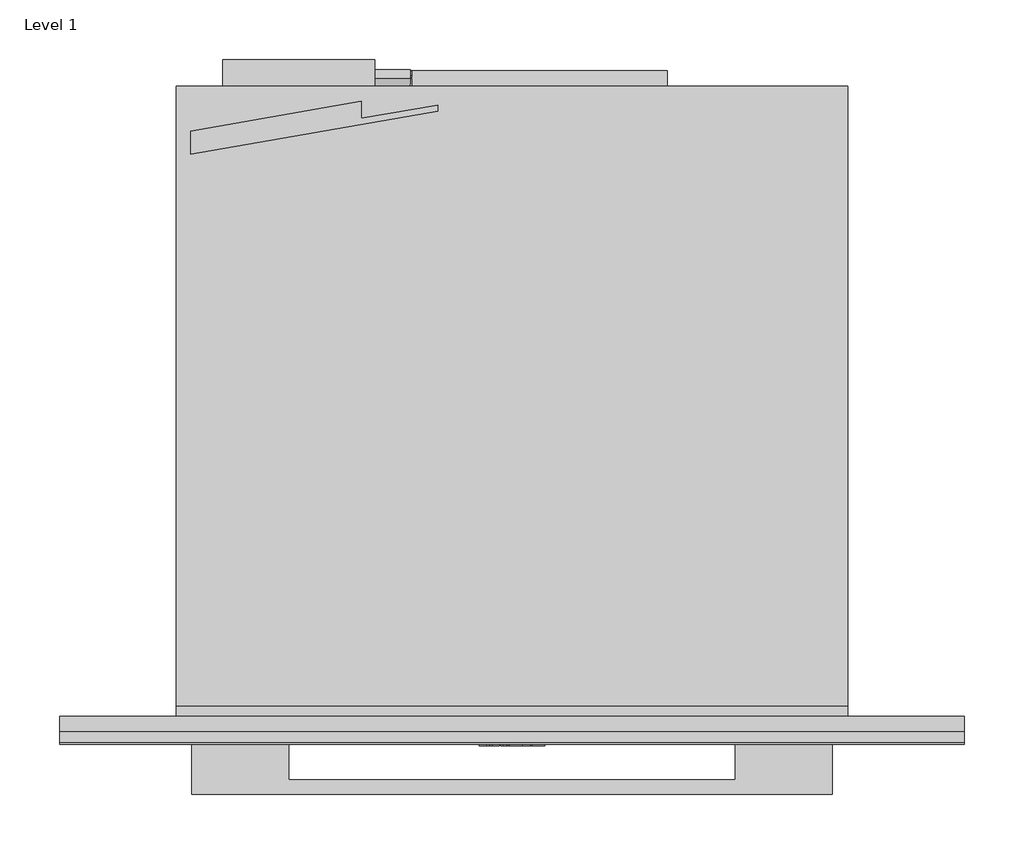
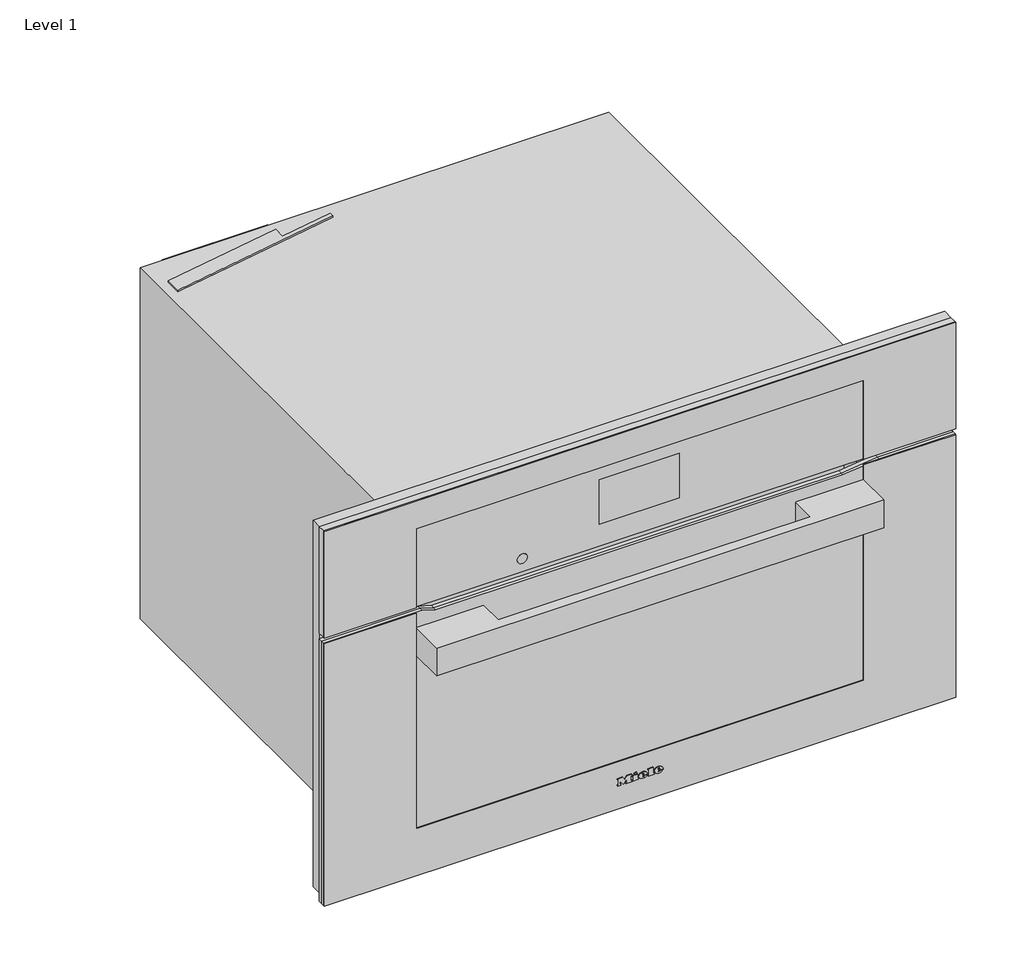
# One storey: 1 proxy.
"""IFC4 building model written with IfcOpenShell, lengths in millimetres."""

from ifc_helpers import new_model, si_unit, origin, place, context, project, spatial, transform, mapped, element, save
from components import specialty_equipment_445a4902

model = new_model("IFC4")

# Units and contexts
model_context = context("Model", 3, world=origin())
ifc_project = project(units=[si_unit("LENGTHUNIT", "METRE", prefix="MILLI")], contexts=[model_context])

# Site, building, storey
site = spatial("IfcSite", under=ifc_project)
building = spatial("IfcBuilding", under=site)
storey = spatial("IfcBuildingStorey", under=building, Name="Level 1", Elevation=0.0)

# Proxy
placement = place(None, origin())
specialty_equipment_shape = specialty_equipment_445a4902(model_context)
element("IfcBuildingElementProxy", 1, Name="11804590_USA_H7570BM_EDST-CLST : 22757046_USA_11804590_H7570BM_EDST-CLST", ObjectType="11804590_USA_H7570BM_EDST-CLST : 22757046_USA_11804590_H7570BM_EDST-CLST", at=placement, inside=storey, context=model_context, shape_type="MappedRepresentation", body=[
    mapped(specialty_equipment_shape, transform((0.0, 0.0, 0.0), x_axis=(1.0, 0.0, 0.0), y_axis=(0.0, 1.0, 0.0), z_axis=(0.0, 0.0, 1.0))),
])

save(model, "model.ifc")
